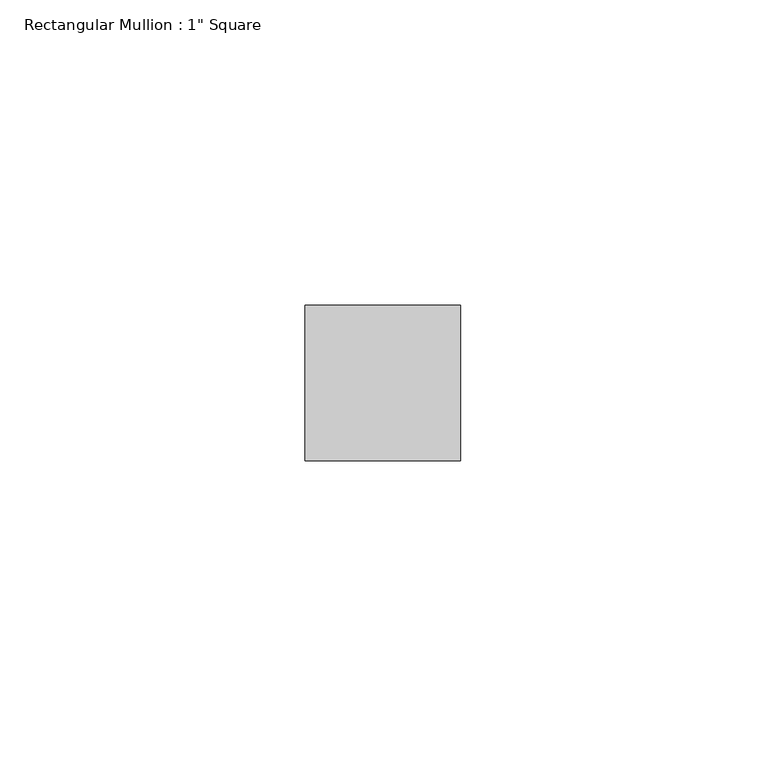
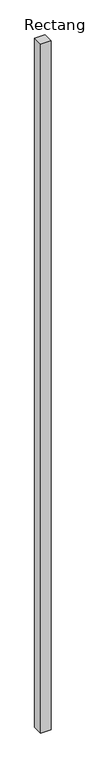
"""IFC4 building model written with IfcOpenShell, lengths in millimetres: member geometry."""

from ifc_helpers import new_model, si_unit, frame, origin, place, context, project, spatial, polyline, outline, extrude, source, transform, mapped, element, save


def member_da94d8b7(model_context):
    return source(origin(), model_context, "Body", "SweptSolid", [
        extrude(outline(polyline([(0.0, 12.7), (0.0, -12.7), (-25.4, -12.7), (-25.4, 12.7), (0.0, 12.7)])), frame((0.0, 0.0, -1763.2100124), z_axis=(0.0, 0.0, 1.0), x_axis=(1.0, 0.0, 0.0)), (0.0, 0.0, 1.0), 1763.2100124),
    ])


if __name__ == "__main__":
    model = new_model("IFC4")
    model_context = context("Model", 3, world=origin())
    ifc_project = project(units=[si_unit("LENGTHUNIT", "METRE", prefix="MILLI")], contexts=[model_context])
    site = spatial("IfcSite", under=ifc_project)
    building = spatial("IfcBuilding", under=site)
    placement = place(None, origin())
    member_shape = member_da94d8b7(model_context)
    element("IfcMember", 1, ObjectType="Rectangular Mullion : 1\" Square", at=placement, inside=building, context=model_context, shape_type="MappedRepresentation", body=[
        mapped(member_shape, transform((0.0, 0.0, 0.0), x_axis=(1.0, 0.0, 0.0), y_axis=(0.0, 1.0, 0.0), z_axis=(0.0, 0.0, 1.0))),
    ])
    save(model, "model.ifc")
